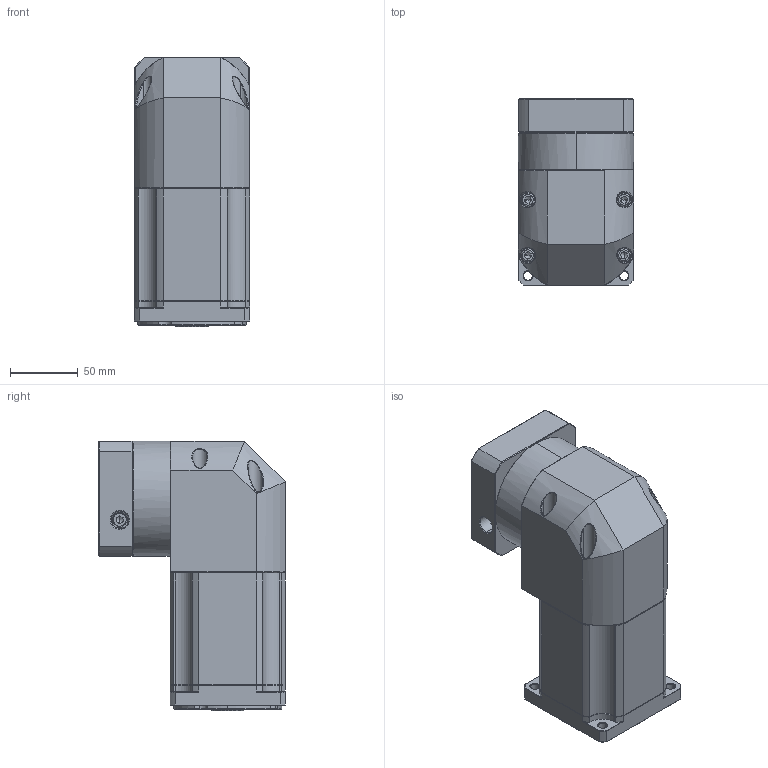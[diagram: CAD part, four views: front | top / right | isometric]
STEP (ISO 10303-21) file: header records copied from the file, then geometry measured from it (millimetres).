
FILE_DESCRIPTION (( 'STEP AP214' ), '1' );
FILE_NAME ('ZBR090-K15-L3-P2-12.7-73-69.6X69.6-M6.step', '2023-08-19T02:11:02', ( '' ), ( '' ), 'SwSTEP 2.0', 'SolidWorks 2016', '' );
FILE_SCHEMA (( 'AUTOMOTIVE_DESIGN' ));
Length unit declared in the file: millimetre
Products named in the file (1): ZBR090-K15-L3-P2-12.7-73-69.6X69.6-M6
Bounding box: 85 x 137.6 x 199 mm (x, y, z)
Volume: 1471725 mm3; surface area: 143116.3 mm2
Topology: 5 solids, 5 shells, 2341 faces, 6118 edges, 3868 vertices
Faces by surface type: plane 1150, bspline 414, cylinder 409, cone 344, torus 24
Entity records: 123729 total; most frequent: CARTESIAN_POINT 43863, ORIENTED_EDGE 12164, DIRECTION 9708, EDGE_CURVE 6082, LINE 3908, VECTOR 3908, VERTEX_POINT 3868, AXIS2_PLACEMENT_3D 2900
